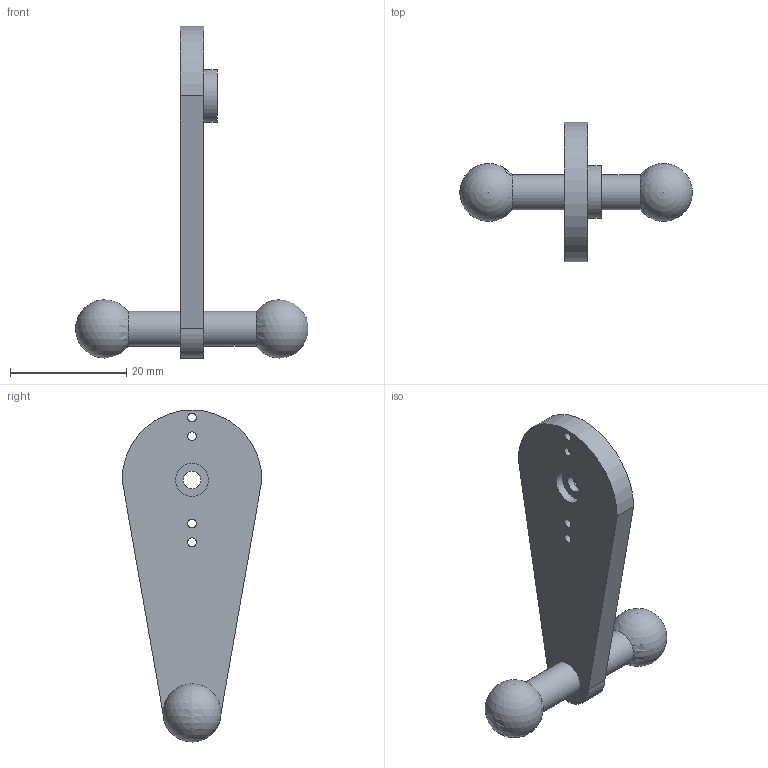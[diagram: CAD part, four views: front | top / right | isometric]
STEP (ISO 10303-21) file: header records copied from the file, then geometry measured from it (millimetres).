
FILE_DESCRIPTION(/* description */ (''),/* implementation_level */ '2;1');
FILE_NAME(/* name */ 'link1 with servo.step',/* time_stamp */ '2026-11-08T23:54:23+07:00',/* author */ (''),/* organization */ (''),/* preprocessor_version */ 'ST-DEVELOPER v20.2',/* originating_system */ 'Autodesk Translation Framework v15.17.0.0',/* authorisation */ '');
FILE_SCHEMA (('AUTOMOTIVE_DESIGN { 1 0 10303 214 3 1 1 }'));
Length unit declared in the file: millimetre
Products named in the file (1): link1
Bounding box: 39.96 x 24 x 57 mm (x, y, z)
Volume: 5283.9 mm3; surface area: 3529.7 mm2
Topology: 1 solids, 1 shells, 101 faces, 287 edges, 191 vertices
Faces by surface type: plane 61, cylinder 38, sphere 2
Full cylindrical faces by diameter (mm): 1.5 x4, 3 x1, 5.7 x1, 6 x2, 9 x1
Entity records: 3321 total; most frequent: CARTESIAN_POINT 576, DIRECTION 573, ORIENTED_EDGE 566, EDGE_CURVE 283, LINE 197, VECTOR 197, VERTEX_POINT 191, AXIS2_PLACEMENT_3D 188
